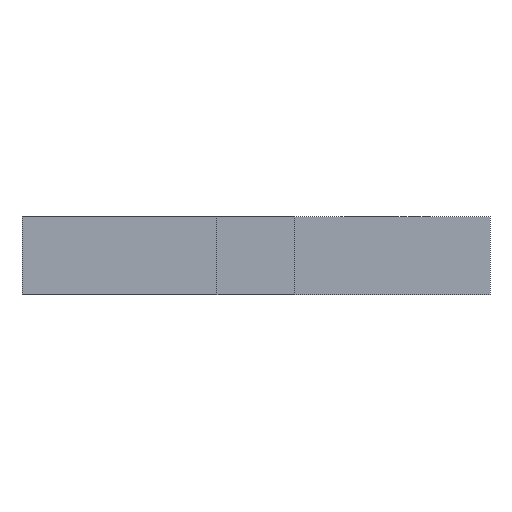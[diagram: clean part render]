
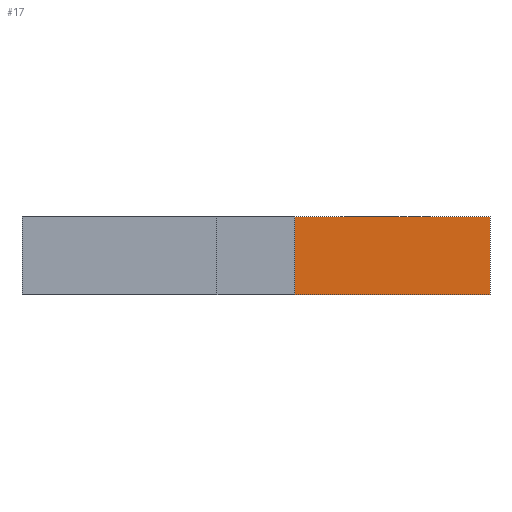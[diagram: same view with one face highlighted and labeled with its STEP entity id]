
A CAD part, left-side view. The second image highlights one B-rep face of the part: STEP entity #17.
In plain terms, the highlighted planar face has unit normal (-1, 0, 0).
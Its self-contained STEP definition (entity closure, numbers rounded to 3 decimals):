
#17 = ADVANCED_FACE('',(#18),#32,.F.);
#18 = FACE_BOUND('',#19,.F.);
#19 = EDGE_LOOP('',(#20,#55,#83,#111));
#20 = ORIENTED_EDGE('',*,*,#21,.F.);
#21 = EDGE_CURVE('',#22,#24,#26,.T.);
#22 = VERTEX_POINT('',#23);
#23 = CARTESIAN_POINT('',(46.,-9.,6.));
#24 = VERTEX_POINT('',#25);
#25 = CARTESIAN_POINT('',(46.,-1.,6.));
#26 = SURFACE_CURVE('',#27,(#31,#43),.PCURVE_S1.);
#27 = LINE('',#28,#29);
#28 = CARTESIAN_POINT('',(46.,-9.,6.));
#29 = VECTOR('',#30,1.);
#30 = DIRECTION('',(0.,1.,0.));
#31 = PCURVE('',#32,#37);
#32 = PLANE('',#33);
#33 = AXIS2_PLACEMENT_3D('',#34,#35,#36);
#34 = CARTESIAN_POINT('',(46.,-9.,3.));
#35 = DIRECTION('',(1.,0.,0.));
#36 = DIRECTION('',(0.,0.,1.));
#37 = DEFINITIONAL_REPRESENTATION('',(#38),#42);
#38 = LINE('',#39,#40);
#39 = CARTESIAN_POINT('',(3.,0.));
#40 = VECTOR('',#41,1.);
#41 = DIRECTION('',(0.,-1.));
#42 = ( GEOMETRIC_REPRESENTATION_CONTEXT(2) 
PARAMETRIC_REPRESENTATION_CONTEXT() REPRESENTATION_CONTEXT('2D SPACE',''
  ) );
#43 = PCURVE('',#44,#49);
#44 = PLANE('',#45);
#45 = AXIS2_PLACEMENT_3D('',#46,#47,#48);
#46 = CARTESIAN_POINT('',(46.,-9.,6.));
#47 = DIRECTION('',(0.,0.,1.));
#48 = DIRECTION('',(1.,0.,0.));
#49 = DEFINITIONAL_REPRESENTATION('',(#50),#54);
#50 = LINE('',#51,#52);
#51 = CARTESIAN_POINT('',(0.,0.));
#52 = VECTOR('',#53,1.);
#53 = DIRECTION('',(0.,1.));
#54 = ( GEOMETRIC_REPRESENTATION_CONTEXT(2) 
PARAMETRIC_REPRESENTATION_CONTEXT() REPRESENTATION_CONTEXT('2D SPACE',''
  ) );
#55 = ORIENTED_EDGE('',*,*,#56,.F.);
#56 = EDGE_CURVE('',#57,#22,#59,.T.);
#57 = VERTEX_POINT('',#58);
#58 = CARTESIAN_POINT('',(46.,-9.,3.));
#59 = SURFACE_CURVE('',#60,(#64,#71),.PCURVE_S1.);
#60 = LINE('',#61,#62);
#61 = CARTESIAN_POINT('',(46.,-9.,3.));
#62 = VECTOR('',#63,1.);
#63 = DIRECTION('',(0.,0.,1.));
#64 = PCURVE('',#32,#65);
#65 = DEFINITIONAL_REPRESENTATION('',(#66),#70);
#66 = LINE('',#67,#68);
#67 = CARTESIAN_POINT('',(0.,0.));
#68 = VECTOR('',#69,1.);
#69 = DIRECTION('',(1.,0.));
#70 = ( GEOMETRIC_REPRESENTATION_CONTEXT(2) 
PARAMETRIC_REPRESENTATION_CONTEXT() REPRESENTATION_CONTEXT('2D SPACE',''
  ) );
#71 = PCURVE('',#72,#77);
#72 = PLANE('',#73);
#73 = AXIS2_PLACEMENT_3D('',#74,#75,#76);
#74 = CARTESIAN_POINT('',(46.,-9.,3.));
#75 = DIRECTION('',(0.,1.,0.));
#76 = DIRECTION('',(0.,0.,1.));
#77 = DEFINITIONAL_REPRESENTATION('',(#78),#82);
#78 = LINE('',#79,#80);
#79 = CARTESIAN_POINT('',(0.,0.));
#80 = VECTOR('',#81,1.);
#81 = DIRECTION('',(1.,0.));
#82 = ( GEOMETRIC_REPRESENTATION_CONTEXT(2) 
PARAMETRIC_REPRESENTATION_CONTEXT() REPRESENTATION_CONTEXT('2D SPACE',''
  ) );
#83 = ORIENTED_EDGE('',*,*,#84,.T.);
#84 = EDGE_CURVE('',#57,#85,#87,.T.);
#85 = VERTEX_POINT('',#86);
#86 = CARTESIAN_POINT('',(46.,-1.,3.));
#87 = SURFACE_CURVE('',#88,(#92,#99),.PCURVE_S1.);
#88 = LINE('',#89,#90);
#89 = CARTESIAN_POINT('',(46.,-9.,3.));
#90 = VECTOR('',#91,1.);
#91 = DIRECTION('',(0.,1.,0.));
#92 = PCURVE('',#32,#93);
#93 = DEFINITIONAL_REPRESENTATION('',(#94),#98);
#94 = LINE('',#95,#96);
#95 = CARTESIAN_POINT('',(0.,0.));
#96 = VECTOR('',#97,1.);
#97 = DIRECTION('',(0.,-1.));
#98 = ( GEOMETRIC_REPRESENTATION_CONTEXT(2) 
PARAMETRIC_REPRESENTATION_CONTEXT() REPRESENTATION_CONTEXT('2D SPACE',''
  ) );
#99 = PCURVE('',#100,#105);
#100 = PLANE('',#101);
#101 = AXIS2_PLACEMENT_3D('',#102,#103,#104);
#102 = CARTESIAN_POINT('',(46.,-9.,3.));
#103 = DIRECTION('',(0.,0.,1.));
#104 = DIRECTION('',(1.,0.,0.));
#105 = DEFINITIONAL_REPRESENTATION('',(#106),#110);
#106 = LINE('',#107,#108);
#107 = CARTESIAN_POINT('',(0.,0.));
#108 = VECTOR('',#109,1.);
#109 = DIRECTION('',(0.,1.));
#110 = ( GEOMETRIC_REPRESENTATION_CONTEXT(2) 
PARAMETRIC_REPRESENTATION_CONTEXT() REPRESENTATION_CONTEXT('2D SPACE',''
  ) );
#111 = ORIENTED_EDGE('',*,*,#112,.T.);
#112 = EDGE_CURVE('',#85,#24,#113,.T.);
#113 = SURFACE_CURVE('',#114,(#118,#124),.PCURVE_S1.);
#114 = LINE('',#115,#116);
#115 = CARTESIAN_POINT('',(46.,-1.,3.));
#116 = VECTOR('',#117,1.);
#117 = DIRECTION('',(0.,0.,1.));
#118 = PCURVE('',#32,#119);
#119 = DEFINITIONAL_REPRESENTATION('',(#120),#123);
#120 = B_SPLINE_CURVE_WITH_KNOTS('',1,(#121,#122),.UNSPECIFIED.,.F.,.F.,
  (2,2),(0.,3.),.PIECEWISE_BEZIER_KNOTS.);
#121 = CARTESIAN_POINT('',(0.,-8.));
#122 = CARTESIAN_POINT('',(3.,-8.));
#123 = ( GEOMETRIC_REPRESENTATION_CONTEXT(2) 
PARAMETRIC_REPRESENTATION_CONTEXT() REPRESENTATION_CONTEXT('2D SPACE',''
  ) );
#124 = PCURVE('',#125,#130);
#125 = PLANE('',#126);
#126 = AXIS2_PLACEMENT_3D('',#127,#128,#129);
#127 = CARTESIAN_POINT('',(13.,-1.,3.));
#128 = DIRECTION('',(0.,1.,0.));
#129 = DIRECTION('',(0.,0.,1.));
#130 = DEFINITIONAL_REPRESENTATION('',(#131),#135);
#131 = LINE('',#132,#133);
#132 = CARTESIAN_POINT('',(0.,33.));
#133 = VECTOR('',#134,1.);
#134 = DIRECTION('',(1.,0.));
#135 = ( GEOMETRIC_REPRESENTATION_CONTEXT(2) 
PARAMETRIC_REPRESENTATION_CONTEXT() REPRESENTATION_CONTEXT('2D SPACE',''
  ) );
